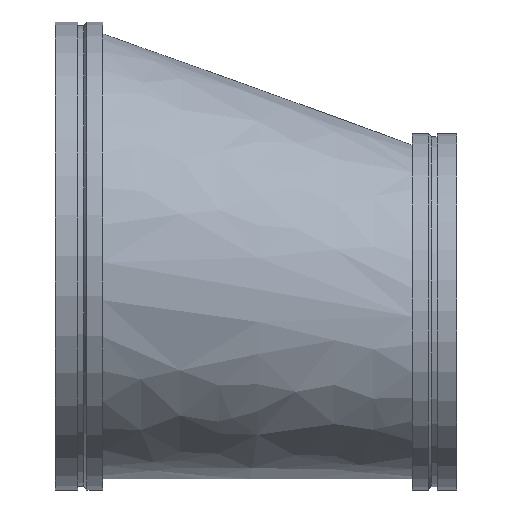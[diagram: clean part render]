
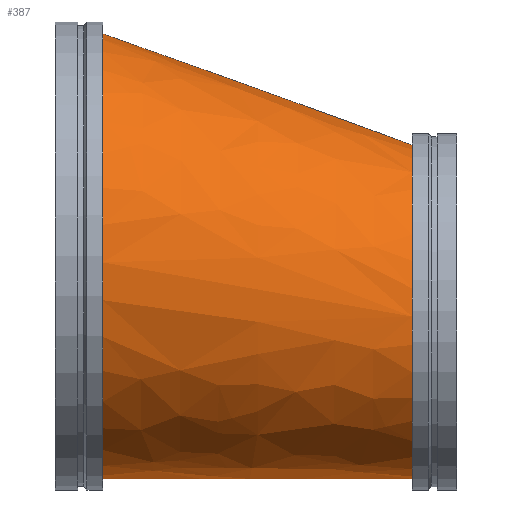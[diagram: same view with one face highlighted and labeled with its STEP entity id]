
A CAD part, top view. The second image highlights one B-rep face of the part: STEP entity #387.
In plain terms, the highlighted free-form (B-spline) face has degree [1, 2] with [2, 9] control points.
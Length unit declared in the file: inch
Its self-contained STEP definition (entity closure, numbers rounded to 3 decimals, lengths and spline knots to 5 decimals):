
#46=B_SPLINE_CURVE_WITH_KNOTS('',1,(#747,#748),.UNSPECIFIED.,.F.,.F.,(2,
2),(-1.43517,-0.00533),.UNSPECIFIED.);
#48=(
BOUNDED_SURFACE()
B_SPLINE_SURFACE(1,2,((#729,#730,#731,#732,#733,#734,#735,#736,#737),(#738,
#739,#740,#741,#742,#743,#744,#745,#746)),.UNSPECIFIED.,.F.,.T.,.F.)
B_SPLINE_SURFACE_WITH_KNOTS((2,2),(3,2,2,2,3),(-0.17593,1.56218),
(-3.14159,-1.5708,0.,1.5708,3.14159),
 .UNSPECIFIED.)
GEOMETRIC_REPRESENTATION_ITEM()
RATIONAL_B_SPLINE_SURFACE(((1.,0.707,1.,0.707,1.,
0.707,1.,0.707,1.),(1.,0.707,1.,0.707,
1.,0.707,1.,0.707,1.)))
REPRESENTATION_ITEM('')
SURFACE()
);
#98=FACE_OUTER_BOUND('',#120,.T.);
#120=EDGE_LOOP('',(#321,#322,#323,#324,#325,#326));
#129=CIRCLE('',#415,15.);
#130=CIRCLE('',#416,15.);
#153=CIRCLE('',#450,20.);
#154=CIRCLE('',#451,20.);
#166=VERTEX_POINT('',#628);
#167=VERTEX_POINT('',#629);
#190=VERTEX_POINT('',#695);
#191=VERTEX_POINT('',#696);
#203=EDGE_CURVE('',#166,#167,#129,.T.);
#204=EDGE_CURVE('',#167,#166,#130,.T.);
#235=EDGE_CURVE('',#190,#191,#153,.T.);
#236=EDGE_CURVE('',#191,#190,#154,.T.);
#243=EDGE_CURVE('',#167,#191,#46,.T.);
#321=ORIENTED_EDGE('',*,*,#203,.T.);
#322=ORIENTED_EDGE('',*,*,#243,.T.);
#323=ORIENTED_EDGE('',*,*,#236,.T.);
#324=ORIENTED_EDGE('',*,*,#235,.T.);
#325=ORIENTED_EDGE('',*,*,#243,.F.);
#326=ORIENTED_EDGE('',*,*,#204,.T.);
#387=ADVANCED_FACE('',(#98),#48,.F.);
#415=AXIS2_PLACEMENT_3D('',#630,#486,#487);
#416=AXIS2_PLACEMENT_3D('',#631,#488,#489);
#450=AXIS2_PLACEMENT_3D('',#697,#564,#565);
#451=AXIS2_PLACEMENT_3D('',#698,#566,#567);
#486=DIRECTION('center_axis',(-1.,0.,0.));
#487=DIRECTION('ref_axis',(0.,-1.,0.));
#488=DIRECTION('center_axis',(-1.,0.,0.));
#489=DIRECTION('ref_axis',(0.,-1.,0.));
#564=DIRECTION('center_axis',(1.,0.,0.));
#565=DIRECTION('ref_axis',(0.,1.,0.));
#566=DIRECTION('center_axis',(1.,0.,0.));
#567=DIRECTION('ref_axis',(0.,1.,0.));
#628=CARTESIAN_POINT('',(32.,-20.,0.));
#629=CARTESIAN_POINT('',(32.,-5.45771,14.99302));
#630=CARTESIAN_POINT('Origin',(32.,-5.,0.));
#631=CARTESIAN_POINT('Origin',(32.,-5.,0.));
#695=CARTESIAN_POINT('',(4.25,-20.,0.));
#696=CARTESIAN_POINT('',(4.25,-0.61028,19.99069));
#697=CARTESIAN_POINT('Origin',(4.25,0.,0.));
#698=CARTESIAN_POINT('Origin',(4.25,0.,0.));
#729=CARTESIAN_POINT('Ctrl Pts',(0.73208,0.00424,
20.62425));
#730=CARTESIAN_POINT('Ctrl Pts',(-2.7623,-20.,20.62425));
#731=CARTESIAN_POINT('Ctrl Pts',(-2.7623,-20.,0.));
#732=CARTESIAN_POINT('Ctrl Pts',(-2.7623,-20.,-20.62425));
#733=CARTESIAN_POINT('Ctrl Pts',(0.73208,0.00424,-20.62425));
#734=CARTESIAN_POINT('Ctrl Pts',(4.22647,20.00848,-20.62425));
#735=CARTESIAN_POINT('Ctrl Pts',(4.22647,20.00848,0.));
#736=CARTESIAN_POINT('Ctrl Pts',(4.22647,20.00848,20.62425));
#737=CARTESIAN_POINT('Ctrl Pts',(0.73208,0.00424,
20.62425));
#738=CARTESIAN_POINT('Ctrl Pts',(34.46506,-5.88831,14.54907));
#739=CARTESIAN_POINT('Ctrl Pts',(32.,-20.,14.54907));
#740=CARTESIAN_POINT('Ctrl Pts',(32.,-20.,0.));
#741=CARTESIAN_POINT('Ctrl Pts',(32.,-20.,-14.54907));
#742=CARTESIAN_POINT('Ctrl Pts',(34.46506,-5.88831,-14.54907));
#743=CARTESIAN_POINT('Ctrl Pts',(36.93012,8.22338,-14.54907));
#744=CARTESIAN_POINT('Ctrl Pts',(36.93012,8.22338,0.));
#745=CARTESIAN_POINT('Ctrl Pts',(36.93012,8.22338,14.54907));
#746=CARTESIAN_POINT('Ctrl Pts',(34.46506,-5.88831,14.54907));
#747=CARTESIAN_POINT('Ctrl Pts',(32.,-5.45771,14.99302));
#748=CARTESIAN_POINT('Ctrl Pts',(4.25,-0.61028,19.99069));
